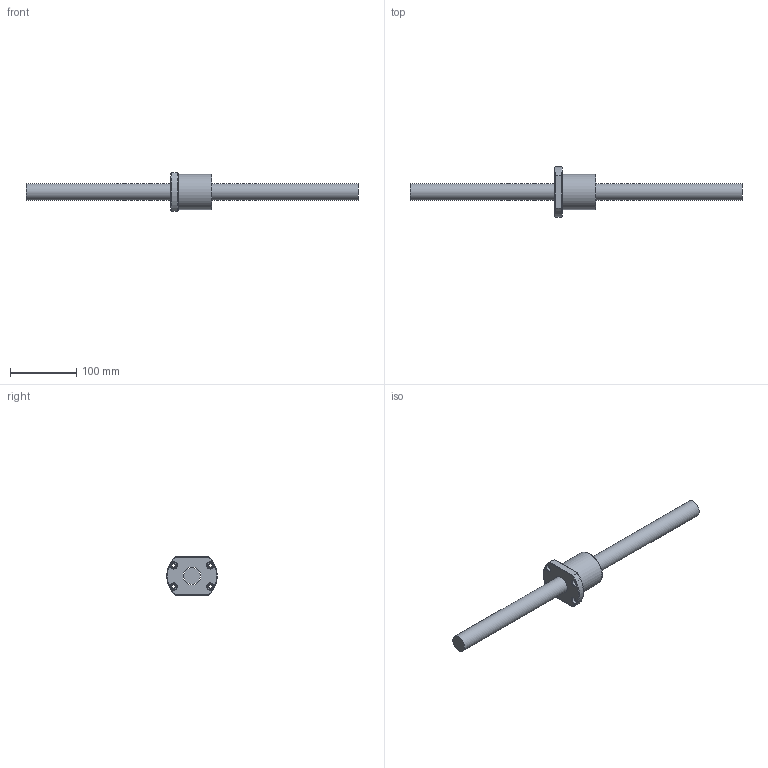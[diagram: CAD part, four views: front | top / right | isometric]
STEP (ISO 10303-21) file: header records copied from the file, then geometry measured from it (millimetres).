
FILE_DESCRIPTION (( 'STEP AP203' ), '1' );
FILE_NAME ('SFV02506D-4.8.step', '2024-05-20T03:38:12', ( '' ), ( '' ), 'SwSTEP 2.0', 'SolidWorks 2022', '' );
FILE_SCHEMA (( 'CONFIG_CONTROL_DESIGN' ));
Length unit declared in the file: millimetre
Products named in the file (1): SFV02506D-4.8
Bounding box: 500 x 76 x 58 mm (x, y, z)
Volume: 362660.5 mm3; surface area: 64113.4 mm2
Topology: 2 solids, 2 shells, 56 faces, 146 edges, 95 vertices
Faces by surface type: cylinder 21, plane 16, cone 9, torus 5, bspline 5
Full cylindrical faces by diameter (mm): 4 x1, 5 x6, 5.5 x4, 9.5 x4, 25 x1, 27.1 x1, 53 x1
Entity records: 3277 total; most frequent: CARTESIAN_POINT 2191, DIRECTION 198, ORIENTED_EDGE 182, EDGE_CURVE 91, AXIS2_PLACEMENT_3D 91, EDGE_LOOP 86, VERTEX_POINT 71, FACE_OUTER_BOUND 64
